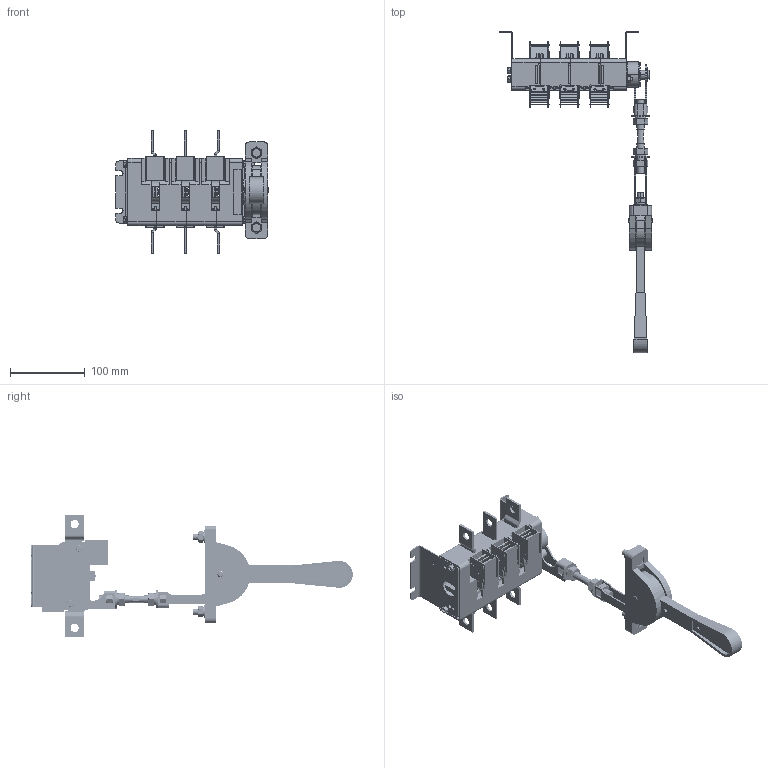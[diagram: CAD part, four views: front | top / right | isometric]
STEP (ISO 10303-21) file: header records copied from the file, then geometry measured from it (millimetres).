
FILE_DESCRIPTION (( 'STEP AP214' ), '1' );
FILE_NAME ('ﾂﾐ32-35ﾔ ﾃﾆﾈﾊ.642523.007-07 (ﾀ31240-250ﾀ).STEP', '2022-07-14T10:03:26', ( '' ), ( '' ), 'SwSTEP 2.0', 'SolidWorks 2018', '' );
FILE_SCHEMA (( 'AUTOMOTIVE_DESIGN' ));
Length unit declared in the file: millimetre
Products named in the file (61): Áîêîâèíà ïðàâàÿ ÃÆÈÊ.735224.024; Îñü; ﾂ鏆鮏 ﾃﾆﾈﾊ.745485.003; ﾘ琺矜 ⅰⅱ浯 ﾃﾆﾈﾊ.758491.067; Áîëò Ì8õ25.58.019; Ïðóæèíà ôèêñàòîðà_250À_-01 (®âª«îç¥­®); ﾂ鏆鮏 ﾃﾆﾈﾊ.745485.004_-01; ﾘ琺矜 10 65ﾃ 016; Èñêðîãàñèòåëü_250A_-01(®â¢¥àáâ¨ï); Êîðïóñ ñðåäíèé  ÃÆÈÊ.735384.043; Øàéáà ñïåöèàëüíàÿ; Êîðïóñ  ëåâûé ÃÆÈÊ.735384.044; Øïèëüêà Ì5 ÃÆÈÊ.758292.004; ﾘ琺矜 8 65ﾃ 016; 锐牮钽囫栩咫黖250A; 砑僔蠂縺_009; Êàìåðà äóãîãàñèòåëüíàÿ ÃÆÈÊ.686431.024_-01 (¤«ï á¡®àª¨); Ñêîáà_250À(ðåàëüíî)_-01; Ðóêîÿòêà ÃÆÈÊ.303658.014; 挓鎀霠罻_100-400; 务黖闷仁.715411.024; 殃钺郷闷仁.745327.019_帷獱; 青汶篪赅_闷仁.735211.002; Ãàéêà Ì5-6Í.5.016; 婰膲僗闉_005; 挓鎀霠罻; ﾘ琺矜 8.01.019; Âàë ÃÆÈÊ.715274.002_-01 (¤«ï á¡®àª¨); ﾏ魵鮏鶴ﾃﾆﾈﾊ.741321.006; Ðóêîÿòêà_ÃÆÈÊ.303658.018; Òàáëè÷êà äëÿ ñáîðêè ÷èñòàÿ áîëüøàÿ; Èñêðîãàñèòåëü250À_ÑÁ_-01 (¤«ï á¡®àª¨); Ãàéêà 2Ì8-6Í.5.016; 殃钺郷闷仁.745327.027_帷獱; Ïðóæ014(13)_¤«ï á¡®àª¨; 殃钺郷闷仁.301535.003蚜; Êîíòàêò ïîäâèæíûé ÃÆÈÊ.685179.144_-01 (¤«ï á¡®ª¨); ﾘ琺矜 5 65ﾃ 016; 想囫蜩磬_闷仁.745355.029; Ïðóæèíà_250À_-01(¤«ï á¡®àª¨)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
Assembly tree (100 placements, depth 5):
  ﾂﾐ32-35ﾔ ﾃﾆﾈﾊ.642523.007-07 (ﾀ31240-250ﾀ)
    Âàë ÃÆÈÊ.715274.002_-01 (¤«ï á¡®àª¨)
    Êîíòàêò ïîäâèæíûé ÃÆÈÊ.685179.144_-01 (¤«ï á¡®ª¨)  x3
      Îñü
      砑僔蠂縺_009
      Êîíòàêò ïîäâèæíûé_250À
      婰膲僗闉_005
      Ïðóæèíà_250À_-01(¤«ï á¡®àª¨)
    Êîðïóñ  ëåâûé ÃÆÈÊ.735384.044
    Êîðïóñ ñðåäíèé  ÃÆÈÊ.735384.043  x2
    暑痫篑 镳噔 闷仁.735384.042
    Áîêîâèíà ïðàâàÿ ÃÆÈÊ.735224.024
    Áîêîâèíà ëåâàÿ ÃÆÈÊ.735224.025_-01(¢_ª)
    Øïèëüêà Ì5 ÃÆÈÊ.758292.004  x2
    Ãàéêà Ì5-6Í.5.016  x4
    ﾘ琺矜 5 65ﾃ 016  x4
    澡犟囹铕 闷仁.745484.003  x2
    Ïðóæèíà ôèêñàòîðà_250À_-01 (®âª«îç¥­®)  x2
    Êàìåðà äóãîãàñèòåëüíàÿ ÃÆÈÊ.686431.024_-01 (¤«ï á¡®àª¨)  x6
      Ñòåíêà_250À
      砑僔蠂縺_250
      锐牮钽囫栩咫黖250A
      Èñêðîãàñèòåëü250À_ÑÁ_-01 (¤«ï á¡®àª¨)
        Ñêîáà_250À(ðåàëüíî)_-01
        抔樖罻  x2
        Èñêðîãàñèòåëü_250A_-01(®â¢¥àáâ¨ï)
    ﾂ鏆鮏 ﾃﾆﾈﾊ.745485.003  x2
    ﾂ鏆鮏 ﾃﾆﾈﾊ.745485.004_-00  x2
    ﾂ鏆鮏 ﾃﾆﾈﾊ.745485.004_-01  x2
    Ðóêîÿòêà ÃÆÈÊ.303658.014
      Êîðïóñ_ÃÆÈÊ.735384.053_¤«ï ç¥àâ¥¦ 
      Ðóêîÿòêà_ÃÆÈÊ.303658.012ÑÁ
        瀇僔蠂縺019
        挓鎀霠罻
      îñü023
      Ñêîáà010
      婰膲僗闉010
      Ïðóæ014(13)_¤«ï á¡®àª¨
      殃钺郷闷仁.301535.003蚜
        Ãàéêà 2Ì10-6Í.5.016
        殃钺郷闷仁.745327.019_帷獱
      务黖闷仁.715411.024
      仫桦郷闷仁.758292.007
      殃钺郷闷仁.301535.004蚜
        殃钺郷闷仁.745327.027_帷獱
        Ãàéêà 2Ì10-6Í.5.016
      Ðóêîÿòêà_ÃÆÈÊ.303658.018
        ﾏ魵鮏鶴 ﾃﾆﾈﾊ.304594.012Cﾁ
          ﾏ魵鮏鶴ﾃﾆﾈﾊ.741321.006
          ﾎ_ﾃﾆﾈﾊ.715411.027_-01 (癸ｮ爼)
          想囫蜩磬_闷仁.745355.029
        挓鎀霠罻_100-400
      Ãàéêà 2Ì10-6Í.5.016  x2
      ﾘ琺矜 ⅰⅱ浯 ﾃﾆﾈﾊ.758491.067
      青汶篪赅_闷仁.735211.002
      Áîëò Ì8õ25.58.019  x2
      ﾘ琺矜 8.01.019  x2
      ﾘ琺矜 8 65ﾃ 016  x2
      Ãàéêà 2Ì8-6Í.5.016  x2
      Øàéáà ñïåöèàëüíàÿ  x2
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Bounding box: 204.6 x 430.04 x 164 mm (x, y, z)
Volume: 569240.7 mm3; surface area: 411842.6 mm2
Topology: 161 solids, 161 shells, 4986 faces, 12868 edges, 8309 vertices
Faces by surface type: plane 3437, cylinder 1268, cone 114, bspline 93, sphere 54, torus 20
Entity records: 69247 total; most frequent: CARTESIAN_POINT 20325, DIRECTION 9565, ORIENTED_EDGE 9042, EDGE_CURVE 4521, AXIS2_PLACEMENT_3D 3324, VERTEX_POINT 2917, VECTOR 2917, LINE 2917
